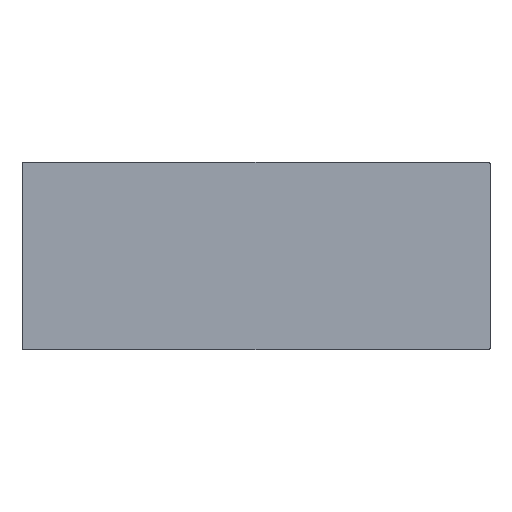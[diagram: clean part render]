
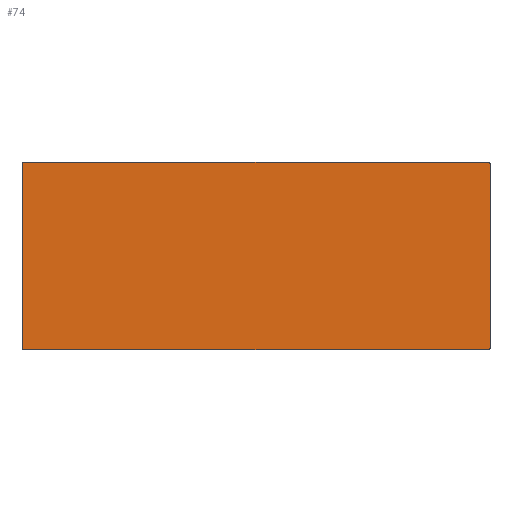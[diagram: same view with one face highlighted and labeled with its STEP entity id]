
A CAD part, top view. The second image highlights one B-rep face of the part: STEP entity #74.
In plain terms, the highlighted planar face has unit normal (0, 0, 1).
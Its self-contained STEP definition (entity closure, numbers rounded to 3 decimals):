
#74=ADVANCED_FACE($,(#664),#8040,.T.);
#664=FACE_OUTER_BOUND($,#1254,.T.);
#1254=EDGE_LOOP($,(#1860,#1861,#1862,#1863,#1864,#1865,#1866,#1867));
#1860=ORIENTED_EDGE($,*,*,#4980,.T.);
#1861=ORIENTED_EDGE($,*,*,#4981,.T.);
#1862=ORIENTED_EDGE($,*,*,#4982,.T.);
#1863=ORIENTED_EDGE($,*,*,#4983,.T.);
#1864=ORIENTED_EDGE($,*,*,#4984,.T.);
#1865=ORIENTED_EDGE($,*,*,#4985,.T.);
#1866=ORIENTED_EDGE($,*,*,#4986,.T.);
#1867=ORIENTED_EDGE($,*,*,#4987,.T.);
#4980=EDGE_CURVE($,#6540,#6541,#9032,.T.);
#4981=EDGE_CURVE($,#6541,#6542,#8146,.T.);
#4982=EDGE_CURVE($,#6542,#6543,#9033,.T.);
#4983=EDGE_CURVE($,#6543,#6544,#8147,.T.);
#4984=EDGE_CURVE($,#6544,#6545,#9034,.T.);
#4985=EDGE_CURVE($,#6545,#6546,#8148,.T.);
#4986=EDGE_CURVE($,#6546,#6547,#9035,.T.);
#4987=EDGE_CURVE($,#6547,#6540,#8149,.T.);
#6540=VERTEX_POINT($,#10390);
#6541=VERTEX_POINT($,#10391);
#6542=VERTEX_POINT($,#10392);
#6543=VERTEX_POINT($,#10393);
#6544=VERTEX_POINT($,#10394);
#6545=VERTEX_POINT($,#10395);
#6546=VERTEX_POINT($,#10396);
#6547=VERTEX_POINT($,#10397);
#8040=PLANE($,#9794);
#8146=(
BOUNDED_CURVE()
B_SPLINE_CURVE(2,(#10014,#10015,#10016),.UNSPECIFIED.,.F.,.F.)
B_SPLINE_CURVE_WITH_KNOTS((3,3),(-15.708,0.),.UNSPECIFIED.)
CURVE()
GEOMETRIC_REPRESENTATION_ITEM()
RATIONAL_B_SPLINE_CURVE((1.,0.707,1.))
REPRESENTATION_ITEM($)
);
#8147=(
BOUNDED_CURVE()
B_SPLINE_CURVE(2,(#10019,#10020,#10021),.UNSPECIFIED.,.F.,.F.)
B_SPLINE_CURVE_WITH_KNOTS((3,3),(0.,15.708),.UNSPECIFIED.)
CURVE()
GEOMETRIC_REPRESENTATION_ITEM()
RATIONAL_B_SPLINE_CURVE((1.,0.707,1.))
REPRESENTATION_ITEM($)
);
#8148=(
BOUNDED_CURVE()
B_SPLINE_CURVE(2,(#10024,#10025,#10026),.UNSPECIFIED.,.F.,.F.)
B_SPLINE_CURVE_WITH_KNOTS((3,3),(0.,15.708),.UNSPECIFIED.)
CURVE()
GEOMETRIC_REPRESENTATION_ITEM()
RATIONAL_B_SPLINE_CURVE((1.,0.707,1.))
REPRESENTATION_ITEM($)
);
#8149=(
BOUNDED_CURVE()
B_SPLINE_CURVE(2,(#10029,#10030,#10031),.UNSPECIFIED.,.F.,.F.)
B_SPLINE_CURVE_WITH_KNOTS((3,3),(-15.708,0.),.UNSPECIFIED.)
CURVE()
GEOMETRIC_REPRESENTATION_ITEM()
RATIONAL_B_SPLINE_CURVE((1.,0.707,1.))
REPRESENTATION_ITEM($)
);
#9032=B_SPLINE_CURVE_WITH_KNOTS($,1,(#10012,#10013),.UNSPECIFIED.,.F.,.F.,
(2,2),(0.,1180.),.UNSPECIFIED.);
#9033=B_SPLINE_CURVE_WITH_KNOTS($,1,(#10017,#10018),.UNSPECIFIED.,.F.,.F.,
(2,2),(0.,2980.),.UNSPECIFIED.);
#9034=B_SPLINE_CURVE_WITH_KNOTS($,1,(#10022,#10023),.UNSPECIFIED.,.F.,.F.,
(2,2),(0.,1180.),.UNSPECIFIED.);
#9035=B_SPLINE_CURVE_WITH_KNOTS($,1,(#10027,#10028),.UNSPECIFIED.,.F.,.F.,
(2,2),(0.,2980.),.UNSPECIFIED.);
#9794=AXIS2_PLACEMENT_3D($,#10120,#9903,$);
#9903=DIRECTION($,(0.,0.,1.));
#10012=CARTESIAN_POINT($,(2143.547,-526.455,510.689));
#10013=CARTESIAN_POINT($,(2143.547,653.545,510.689));
#10014=CARTESIAN_POINT($,(2143.547,653.545,510.689));
#10015=CARTESIAN_POINT($,(2143.547,663.545,510.689));
#10016=CARTESIAN_POINT($,(2133.547,663.545,510.689));
#10017=CARTESIAN_POINT($,(2133.547,663.545,510.689));
#10018=CARTESIAN_POINT($,(-846.453,663.545,510.689));
#10019=CARTESIAN_POINT($,(-846.453,663.545,510.689));
#10020=CARTESIAN_POINT($,(-856.453,663.545,510.689));
#10021=CARTESIAN_POINT($,(-856.453,653.545,510.689));
#10022=CARTESIAN_POINT($,(-856.453,653.545,510.689));
#10023=CARTESIAN_POINT($,(-856.453,-526.455,510.689));
#10024=CARTESIAN_POINT($,(-856.453,-526.455,510.689));
#10025=CARTESIAN_POINT($,(-856.453,-536.455,510.689));
#10026=CARTESIAN_POINT($,(-846.453,-536.455,510.689));
#10027=CARTESIAN_POINT($,(-846.453,-536.455,510.689));
#10028=CARTESIAN_POINT($,(2133.547,-536.455,510.689));
#10029=CARTESIAN_POINT($,(2133.547,-536.455,510.689));
#10030=CARTESIAN_POINT($,(2143.547,-536.455,510.689));
#10031=CARTESIAN_POINT($,(2143.547,-526.455,510.689));
#10120=CARTESIAN_POINT($,(-856.453,-536.455,510.689));
#10390=CARTESIAN_POINT($,(2143.547,-526.455,510.689));
#10391=CARTESIAN_POINT($,(2143.547,653.545,510.689));
#10392=CARTESIAN_POINT($,(2133.547,663.545,510.689));
#10393=CARTESIAN_POINT($,(-846.453,663.545,510.689));
#10394=CARTESIAN_POINT($,(-856.453,653.545,510.689));
#10395=CARTESIAN_POINT($,(-856.453,-526.455,510.689));
#10396=CARTESIAN_POINT($,(-846.453,-536.455,510.689));
#10397=CARTESIAN_POINT($,(2133.547,-536.455,510.689));
